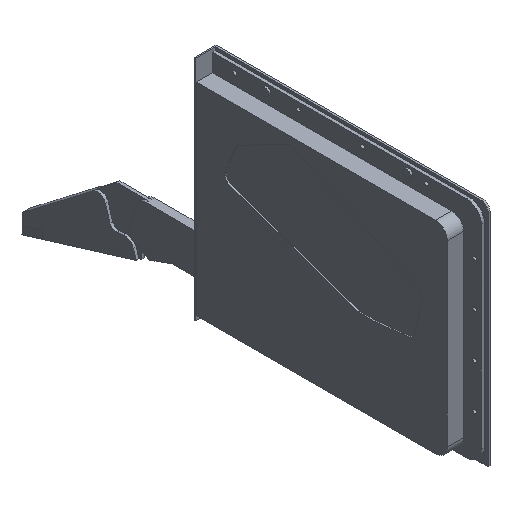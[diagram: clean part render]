
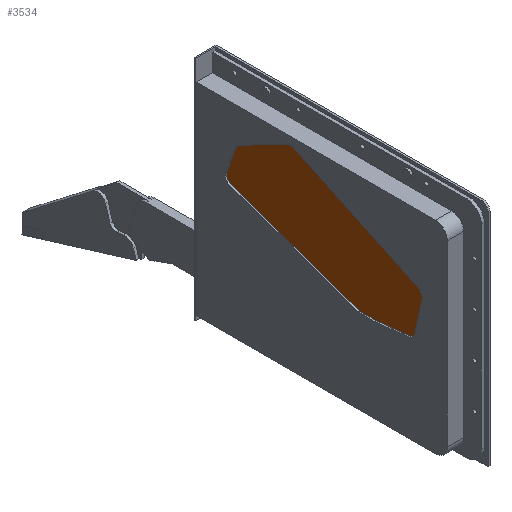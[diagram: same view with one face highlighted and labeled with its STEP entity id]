
A CAD part, isometric view. The second image highlights one B-rep face of the part: STEP entity #3534.
In plain terms, the highlighted planar face has unit normal (-1, 0, 0).
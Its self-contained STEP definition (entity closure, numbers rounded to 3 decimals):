
#100 = LINE ( 'NONE', #1941, #894 ) ;
#111 = DIRECTION ( 'NONE',  ( -1., 0., 0. ) ) ;
#114 = CARTESIAN_POINT ( 'NONE',  ( -12., -105.25, -82.52 ) ) ;
#158 = CARTESIAN_POINT ( 'NONE',  ( -12., -49.1, -17.6 ) ) ;
#174 = EDGE_CURVE ( 'NONE', #3216, #4397, #4356, .T. ) ;
#190 = CIRCLE ( 'NONE', #2856, 5. ) ;
#191 = ORIENTED_EDGE ( 'NONE', *, *, #2642, .T. ) ;
#371 = ORIENTED_EDGE ( 'NONE', *, *, #3267, .T. ) ;
#434 = DIRECTION ( 'NONE',  ( 0., -0.943, -0.333 ) ) ;
#448 = EDGE_CURVE ( 'NONE', #2676, #2892, #1289, .T. ) ;
#496 = DIRECTION ( 'NONE',  ( 0., -1., 0. ) ) ;
#497 = AXIS2_PLACEMENT_3D ( 'NONE', #3048, #1117, #4383 ) ;
#518 = ORIENTED_EDGE ( 'NONE', *, *, #704, .T. ) ;
#557 = ORIENTED_EDGE ( 'NONE', *, *, #4110, .T. ) ;
#648 = EDGE_CURVE ( 'NONE', #2892, #3216, #1913, .T. ) ;
#658 = EDGE_CURVE ( 'NONE', #3941, #2676, #4595, .T. ) ;
#673 = ORIENTED_EDGE ( 'NONE', *, *, #756, .T. ) ;
#675 = VECTOR ( 'NONE', #3024, 1000. ) ;
#697 = LINE ( 'NONE', #4937, #675 ) ;
#704 = EDGE_CURVE ( 'NONE', #4855, #2802, #726, .T. ) ;
#719 = ORIENTED_EDGE ( 'NONE', *, *, #1673, .T. ) ;
#726 = CIRCLE ( 'NONE', #1691, 5. ) ;
#743 = ORIENTED_EDGE ( 'NONE', *, *, #2667, .T. ) ;
#754 = DIRECTION ( 'NONE',  ( 0., -0.215, 0.977 ) ) ;
#756 = EDGE_CURVE ( 'NONE', #2802, #2017, #100, .T. ) ;
#872 = DIRECTION ( 'NONE',  ( -1., 0., 0. ) ) ;
#894 = VECTOR ( 'NONE', #434, 1000. ) ;
#900 = CARTESIAN_POINT ( 'NONE',  ( -12., -51.255, -13.088 ) ) ;
#908 = FACE_OUTER_BOUND ( 'NONE', #4872, .T. ) ;
#969 = VECTOR ( 'NONE', #4223, 1000. ) ;
#1011 = CARTESIAN_POINT ( 'NONE',  ( -12., -51.255, -13.088 ) ) ;
#1070 = EDGE_CURVE ( 'NONE', #4397, #4593, #4590, .T. ) ;
#1117 = DIRECTION ( 'NONE',  ( -1., 0., 0. ) ) ;
#1119 = CARTESIAN_POINT ( 'NONE',  ( -12., -137.89, -58.744 ) ) ;
#1126 = DIRECTION ( 'NONE',  ( -1., 0., 0. ) ) ;
#1127 = CARTESIAN_POINT ( 'NONE',  ( -12., -105.239, -87.52 ) ) ;
#1217 = CARTESIAN_POINT ( 'NONE',  ( -12., -94.236, -87.215 ) ) ;
#1280 = DIRECTION ( 'NONE',  ( 0., -1., 0. ) ) ;
#1289 = CIRCLE ( 'NONE', #2580, 5. ) ;
#1291 = VERTEX_POINT ( 'NONE', #4037 ) ;
#1419 = ORIENTED_EDGE ( 'NONE', *, *, #4799, .T. ) ;
#1507 = CARTESIAN_POINT ( 'NONE',  ( -12., -128.65, -84.954 ) ) ;
#1520 = ORIENTED_EDGE ( 'NONE', *, *, #658, .T. ) ;
#1529 = VECTOR ( 'NONE', #754, 1000. ) ;
#1673 = EDGE_CURVE ( 'NONE', #2294, #1291, #2827, .T. ) ;
#1691 = AXIS2_PLACEMENT_3D ( 'NONE', #3491, #3922, #3162 ) ;
#1694 = DIRECTION ( 'NONE',  ( 0., 0.89, -0.457 ) ) ;
#1700 = CIRCLE ( 'NONE', #497, 5. ) ;
#1708 = CIRCLE ( 'NONE', #1950, 5. ) ;
#1781 = CIRCLE ( 'NONE', #2351, 5. ) ;
#1913 = LINE ( 'NONE', #1507, #2096 ) ;
#1931 = DIRECTION ( 'NONE',  ( 0., -1., 0. ) ) ;
#1941 = CARTESIAN_POINT ( 'NONE',  ( -12., -94.236, -87.215 ) ) ;
#1950 = AXIS2_PLACEMENT_3D ( 'NONE', #3388, #1126, #3009 ) ;
#2017 = VERTEX_POINT ( 'NONE', #1217 ) ;
#2034 = DIRECTION ( 'NONE',  ( 0., -1., 0. ) ) ;
#2065 = PLANE ( 'NONE',  #3658 ) ;
#2096 = VECTOR ( 'NONE', #3055, 1000. ) ;
#2181 = CARTESIAN_POINT ( 'NONE',  ( -12., -4.5, -52. ) ) ;
#2213 = CARTESIAN_POINT ( 'NONE',  ( -12., -132.981, -81.058 ) ) ;
#2261 = CARTESIAN_POINT ( 'NONE',  ( -12., -137.89, -58.744 ) ) ;
#2265 = VECTOR ( 'NONE', #1694, 1000. ) ;
#2294 = VERTEX_POINT ( 'NONE', #1011 ) ;
#2351 = AXIS2_PLACEMENT_3D ( 'NONE', #4615, #111, #1931 ) ;
#2412 = DIRECTION ( 'NONE',  ( -1., 0., 0. ) ) ;
#2413 = CARTESIAN_POINT ( 'NONE',  ( -12., -95.889, -87.5 ) ) ;
#2441 = DIRECTION ( 'NONE',  ( 0., 0.902, 0.431 ) ) ;
#2534 = CARTESIAN_POINT ( 'NONE',  ( -12., -7.836, -56.715 ) ) ;
#2580 = AXIS2_PLACEMENT_3D ( 'NONE', #114, #872, #4030 ) ;
#2642 = EDGE_CURVE ( 'NONE', #3666, #2950, #1700, .T. ) ;
#2656 = AXIS2_PLACEMENT_3D ( 'NONE', #3018, #3752, #3353 ) ;
#2667 = EDGE_CURVE ( 'NONE', #4968, #4855, #1781, .T. ) ;
#2676 = VERTEX_POINT ( 'NONE', #3577 ) ;
#2778 = VECTOR ( 'NONE', #2441, 1000. ) ;
#2802 = VERTEX_POINT ( 'NONE', #2534 ) ;
#2810 = ORIENTED_EDGE ( 'NONE', *, *, #4776, .T. ) ;
#2825 = ORIENTED_EDGE ( 'NONE', *, *, #448, .T. ) ;
#2827 = CIRCLE ( 'NONE', #3956, 5. ) ;
#2856 = AXIS2_PLACEMENT_3D ( 'NONE', #4035, #2412, #2034 ) ;
#2859 = EDGE_CURVE ( 'NONE', #1291, #3666, #4506, .T. ) ;
#2892 = VERTEX_POINT ( 'NONE', #4530 ) ;
#2950 = VERTEX_POINT ( 'NONE', #4174 ) ;
#2956 = CARTESIAN_POINT ( 'NONE',  ( -12., -128.65, -84.954 ) ) ;
#2996 = CARTESIAN_POINT ( 'NONE',  ( -12., -135.161, -53.158 ) ) ;
#3009 = DIRECTION ( 'NONE',  ( 0., -1., 0. ) ) ;
#3018 = CARTESIAN_POINT ( 'NONE',  ( -12., -128.098, -79.984 ) ) ;
#3024 = DIRECTION ( 'NONE',  ( 0., 0.35, -0.937 ) ) ;
#3046 = ORIENTED_EDGE ( 'NONE', *, *, #648, .T. ) ;
#3048 = CARTESIAN_POINT ( 'NONE',  ( -12., -16., -34.6 ) ) ;
#3055 = DIRECTION ( 'NONE',  ( 0., -0.994, 0.11 ) ) ;
#3162 = DIRECTION ( 'NONE',  ( 0., -1., 0. ) ) ;
#3216 = VERTEX_POINT ( 'NONE', #2956 ) ;
#3233 = DIRECTION ( 'NONE',  ( 1., 0., 0. ) ) ;
#3267 = EDGE_CURVE ( 'NONE', #2017, #3941, #1708, .T. ) ;
#3353 = DIRECTION ( 'NONE',  ( 0., -1., 0. ) ) ;
#3388 = CARTESIAN_POINT ( 'NONE',  ( -12., -95.9, -82.5 ) ) ;
#3491 = CARTESIAN_POINT ( 'NONE',  ( -12., -9.5, -52. ) ) ;
#3502 = ORIENTED_EDGE ( 'NONE', *, *, #2859, .T. ) ;
#3534 = ADVANCED_FACE ( 'NONE', ( #908 ), #2065, .F. ) ;
#3577 = CARTESIAN_POINT ( 'NONE',  ( -12., -105.239, -87.52 ) ) ;
#3658 = AXIS2_PLACEMENT_3D ( 'NONE', #4744, #3233, #1280 ) ;
#3666 = VERTEX_POINT ( 'NONE', #4115 ) ;
#3752 = DIRECTION ( 'NONE',  ( -1., 0., 0. ) ) ;
#3777 = CARTESIAN_POINT ( 'NONE',  ( -12., -4.816, -50.25 ) ) ;
#3922 = DIRECTION ( 'NONE',  ( -1., 0., 0. ) ) ;
#3941 = VERTEX_POINT ( 'NONE', #2413 ) ;
#3955 = DIRECTION ( 'NONE',  ( -1., 0., 0. ) ) ;
#3956 = AXIS2_PLACEMENT_3D ( 'NONE', #158, #3955, #496 ) ;
#4006 = CARTESIAN_POINT ( 'NONE',  ( -12., -13.716, -30.152 ) ) ;
#4030 = DIRECTION ( 'NONE',  ( 0., -1., 0. ) ) ;
#4035 = CARTESIAN_POINT ( 'NONE',  ( -12., -133.006, -57.67 ) ) ;
#4037 = CARTESIAN_POINT ( 'NONE',  ( -12., -46.816, -13.152 ) ) ;
#4097 = VERTEX_POINT ( 'NONE', #2996 ) ;
#4110 = EDGE_CURVE ( 'NONE', #2950, #4968, #697, .T. ) ;
#4115 = CARTESIAN_POINT ( 'NONE',  ( -12., -13.716, -30.152 ) ) ;
#4174 = CARTESIAN_POINT ( 'NONE',  ( -12., -11.316, -32.85 ) ) ;
#4223 = DIRECTION ( 'NONE',  ( 0., -1., -0.002 ) ) ;
#4251 = ORIENTED_EDGE ( 'NONE', *, *, #174, .T. ) ;
#4301 = ORIENTED_EDGE ( 'NONE', *, *, #1070, .T. ) ;
#4356 = CIRCLE ( 'NONE', #2656, 5. ) ;
#4361 = LINE ( 'NONE', #900, #2778 ) ;
#4383 = DIRECTION ( 'NONE',  ( 0., -1., 0. ) ) ;
#4397 = VERTEX_POINT ( 'NONE', #2213 ) ;
#4506 = LINE ( 'NONE', #4006, #2265 ) ;
#4530 = CARTESIAN_POINT ( 'NONE',  ( -12., -105.802, -87.489 ) ) ;
#4590 = LINE ( 'NONE', #1119, #1529 ) ;
#4593 = VERTEX_POINT ( 'NONE', #2261 ) ;
#4595 = LINE ( 'NONE', #1127, #969 ) ;
#4615 = CARTESIAN_POINT ( 'NONE',  ( -12., -9.5, -52. ) ) ;
#4744 = CARTESIAN_POINT ( 'NONE',  ( -12., -157., -5.5 ) ) ;
#4776 = EDGE_CURVE ( 'NONE', #4593, #4097, #190, .T. ) ;
#4799 = EDGE_CURVE ( 'NONE', #4097, #2294, #4361, .T. ) ;
#4855 = VERTEX_POINT ( 'NONE', #2181 ) ;
#4872 = EDGE_LOOP ( 'NONE', ( #371, #1520, #2825, #3046, #4251, #4301, #2810, #1419, #719, #3502, #191, #557, #743, #518, #673 ) ) ;
#4937 = CARTESIAN_POINT ( 'NONE',  ( -12., -4.816, -50.25 ) ) ;
#4968 = VERTEX_POINT ( 'NONE', #3777 ) ;
